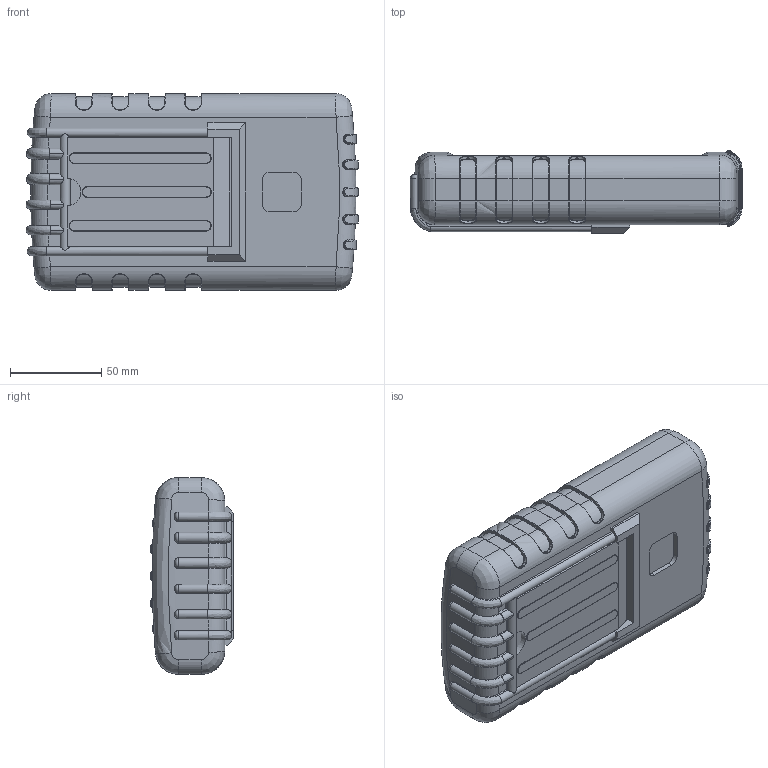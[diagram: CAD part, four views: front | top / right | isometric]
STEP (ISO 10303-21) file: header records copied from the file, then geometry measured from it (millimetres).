
FILE_DESCRIPTION (( 'STEP AP214' ), '1' );
FILE_NAME ('91-42-9V-R.STEP', '2020-10-17T15:26:27', ( 'Rudy' ), ( '' ), 'SwSTEP 2.0', 'SolidWorks 2014', '' );
FILE_SCHEMA (( 'AUTOMOTIVE_DESIGN' ));
Length unit declared in the file: inch
Products named in the file (8): 90 RBT; 90 PCB 9V; 9V door; 91 LCD Top; 90-9V Shallow; 91-42-9V-R; RT 90 stand
Assembly tree (7 placements, depth 3):
  91-42-9V-R
    90-9V Shallow
    91 LCD Top
    9V door
    90 PCB 9V
    90 RBT
      90 RBT
      RT 90 stand
Bounding box: 182.05 x 45.61 x 108 mm (x, y, z)
Volume: 358759.5 mm3; surface area: 205446.7 mm2
Topology: 6 solids, 6 shells, 1343 faces, 3434 edges, 2137 vertices
Faces by surface type: plane 540, cylinder 429, bspline 180, torus 116, cone 62, sphere 16
Entity records: 52798 total; most frequent: CARTESIAN_POINT 21104, ORIENTED_EDGE 6836, DIRECTION 6310, EDGE_CURVE 3418, AXIS2_PLACEMENT_3D 2285, VERTEX_POINT 2129, LINE 1740, VECTOR 1740
